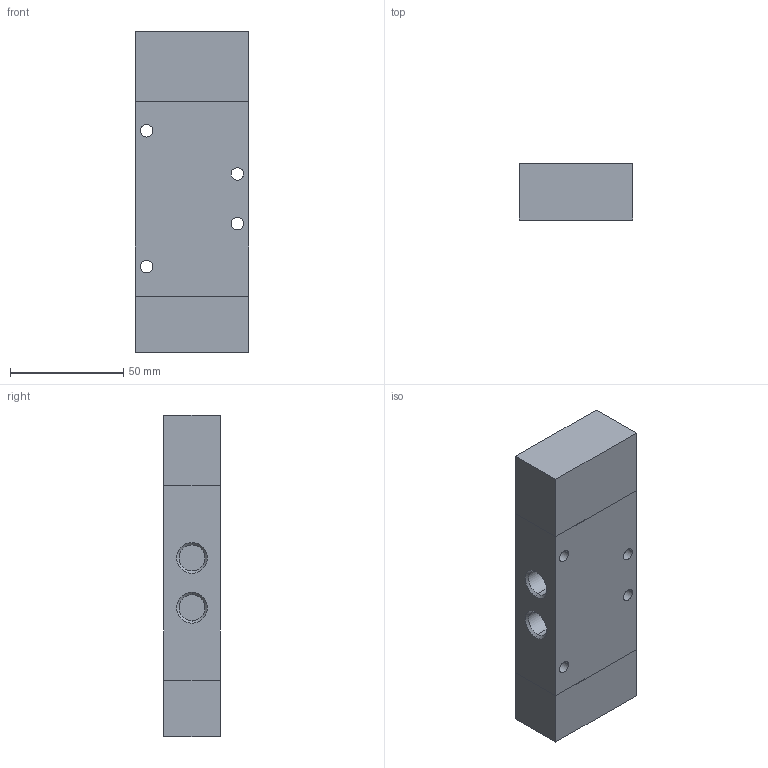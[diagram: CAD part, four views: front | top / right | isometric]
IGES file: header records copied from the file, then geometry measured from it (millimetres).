
Global section: file name: No Iges File Name specified; native system: AutoDesk Inventor R11.0; preprocessor: AutoDesk Inventor Iges Exporter R11.0; author: No Author specified; organization: No Organization specified; date: 20061219.092227; units: millimetre
Bounding box: 50 x 25 x 142 mm (x, y, z)
Volume: 168583.9 mm3; surface area: 27478.9 mm2
Topology: 1 solids, 1 shells, 54 faces, 120 edges, 76 vertices
Faces by surface type: bspline 30, plane 16, revolution 8
